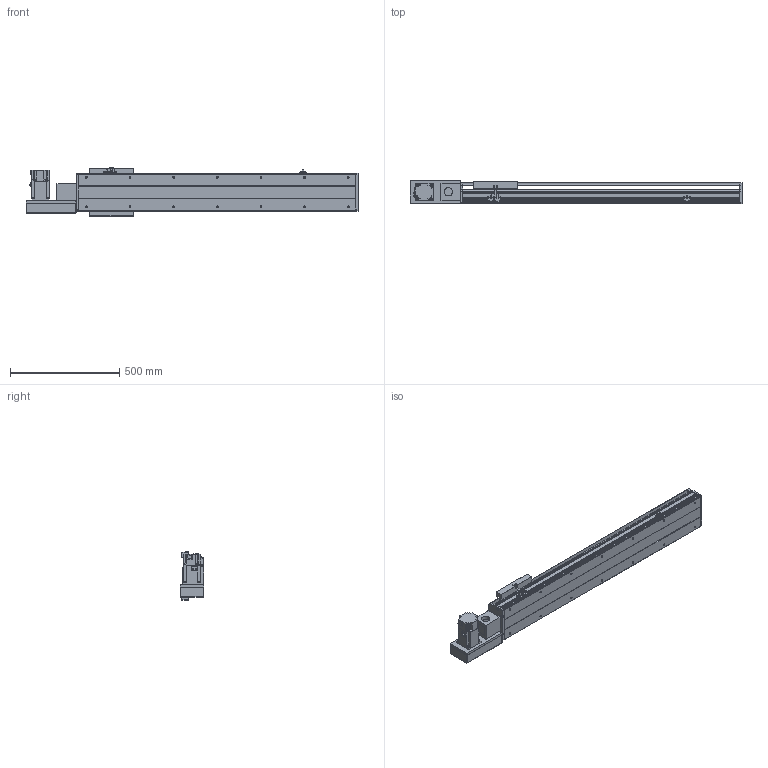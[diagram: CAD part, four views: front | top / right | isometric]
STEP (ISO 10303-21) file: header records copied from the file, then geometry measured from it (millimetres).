
FILE_DESCRIPTION(/* description */ ('STEP AP214'),/* implementation_level */ '2;1');
FILE_NAME(/* name */ 'PBS200-P40-S900-L-T75-C1-N(0)',/* time_stamp */ '2022-06-11T07:48:32+02:00',/* author */ ('License CC BY-ND 4.0'),/* organization */ ('CADENAS'),/* preprocessor_version */ 'ST-DEVELOPER v18.102',/* originating_system */ 'PARTsolutions',/* authorisation */ ' ');
FILE_SCHEMA (('AUTOMOTIVE_DESIGN {1 0 10303 214 3 1 1}'));
Length unit declared in the file: millimetre
Products named in the file (7): PBS200-P40-S900-L-T75-C1-N(0); PBS200_sensor; PBS200_plant; PBS200_sliser; T75-p1; PBS200T-L_motors; PBS200-S900()_body
Assembly tree (8 placements, depth 2):
  PBS200-P40-S900-L-T75-C1-N(0)
    PBS200_sensor  x3
    PBS200_plant
    PBS200_sliser
    T75-p1
    PBS200T-L_motors
    PBS200-S900()_body
Bounding box: 1522 x 109 x 221 mm (x, y, z)
Volume: 10613222.5 mm3; surface area: 1720874.5 mm2
Topology: 8 solids, 8 shells, 914 faces, 2364 edges, 1542 vertices
Faces by surface type: plane 572, cylinder 296, cone 46
Full cylindrical faces by diameter (mm): 2.459 x6, 3.242 x4, 4.5 x6, 4.917 x4, 5 x6, 6 x7, 6.6 x8, 6.647 x18, 8 x6, 10 x4, 12 x8, 38 x2, 40 x1, 70 x1
Entity records: 24461 total; most frequent: DIRECTION 4303, CARTESIAN_POINT 4174, ORIENTED_EDGE 3970, EDGE_CURVE 1985, AXIS2_PLACEMENT_3D 1495, VERTEX_POINT 1366, LINE 1313, VECTOR 1313
